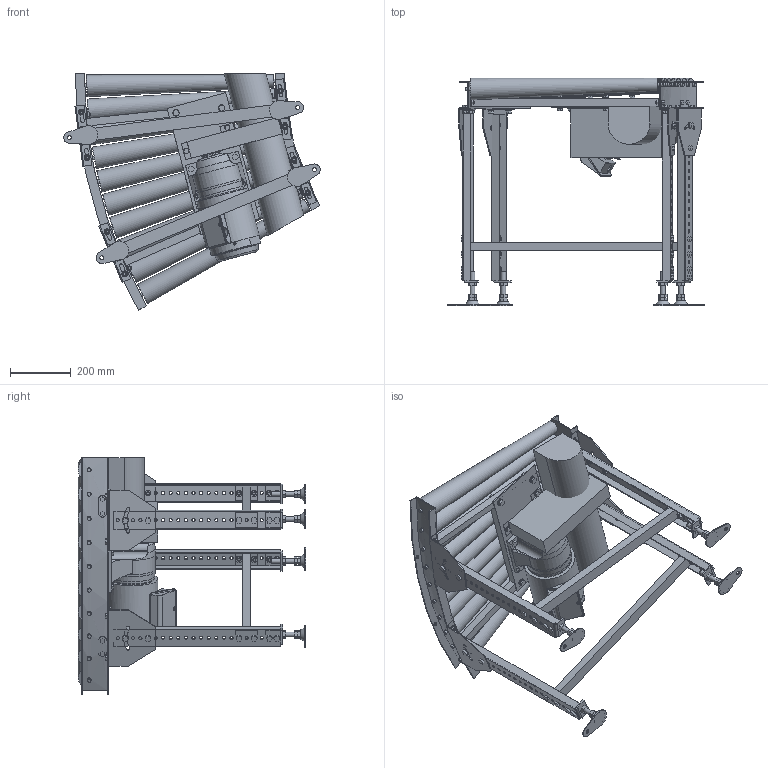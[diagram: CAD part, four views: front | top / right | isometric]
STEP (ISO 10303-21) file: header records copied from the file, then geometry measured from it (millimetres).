
FILE_DESCRIPTION( (''), '2;1');
FILE_NAME ('WEB-MCD-42-630-50-30°-C9.stp','2026-03-19T09:48:56',(''),(''),'spGate 20.6.2 (****-****-****-****)','','');
FILE_SCHEMA (('AUTOMOTIVE_DESIGN'));
Length unit declared in the file: millimetre
Products named in the file (51): WEB-MCD-42-630-50-30_-C9; TEMP_X_T-prt0; TEMP_X_T-prt1; TEMP_X_T-prt2; TEMP_X_T-prt3; TEMP_X_T-prt4; TEMP_X_T-prt5; TEMP_X_T-prt6; TEMP_X_T-prt7; TEMP_X_T-prt8; TEMP_X_T-prt9; TEMP_X_T-prt10; TEMP_X_T-prt11; TEMP_X_T-prt12; TEMP_X_T-prt13; TEMP_X_T-prt14; TEMP_X_T-prt15; TEMP_X_T-prt16; TEMP_X_T-prt17; TEMP_X_T-prt18; TEMP_X_T-prt19; TEMP_X_T-prt20; TEMP_X_T-prt21; TEMP_X_T-prt22; TEMP_X_T-prt23; TEMP_X_T-prt24; TEMP_X_T-prt25; TEMP_X_T-prt26; TEMP_X_T-prt27; TEMP_X_T-prt28; TEMP_X_T-prt29; TEMP_X_T-prt30; TEMP_X_T-prt31; TEMP_X_T-prt32; TEMP_X_T-prt33; TEMP_X_T-prt34; TEMP_X_T-prt35; TEMP_X_T-prt36; TEMP_X_T-prt37; TEMP_X_T-prt38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
Assembly tree (50 placements, depth 2):
  WEB-MCD-42-630-50-30_-C9
    TEMP_X_T-prt0
    TEMP_X_T-prt1
    TEMP_X_T-prt2
    TEMP_X_T-prt3
    TEMP_X_T-prt4
    TEMP_X_T-prt5
    TEMP_X_T-prt6
    TEMP_X_T-prt7
    TEMP_X_T-prt8
    TEMP_X_T-prt9
    TEMP_X_T-prt10
    TEMP_X_T-prt11
    TEMP_X_T-prt12
    TEMP_X_T-prt13
    TEMP_X_T-prt14
    TEMP_X_T-prt15
    TEMP_X_T-prt16
    TEMP_X_T-prt17
    TEMP_X_T-prt18
    TEMP_X_T-prt19
    TEMP_X_T-prt20
    TEMP_X_T-prt21
    TEMP_X_T-prt22
    TEMP_X_T-prt23
    TEMP_X_T-prt24
    TEMP_X_T-prt25
    TEMP_X_T-prt26
    TEMP_X_T-prt27
    TEMP_X_T-prt28
    TEMP_X_T-prt29
    TEMP_X_T-prt30
    TEMP_X_T-prt31
    TEMP_X_T-prt32
    TEMP_X_T-prt33
    TEMP_X_T-prt34
    TEMP_X_T-prt35
    TEMP_X_T-prt36
    TEMP_X_T-prt37
    TEMP_X_T-prt38
    TEMP_X_T-prt39
    TEMP_X_T-prt40
    TEMP_X_T-prt41
    TEMP_X_T-prt42
    TEMP_X_T-prt43
    TEMP_X_T-prt44
    TEMP_X_T-prt45
    TEMP_X_T-prt46
    TEMP_X_T-prt47
    TEMP_X_T-prt48
    TEMP_X_T-prt49
Bounding box: 845.43 x 750 x 780 mm (x, y, z)
Volume: 39297681.6 mm3; surface area: 3641156.7 mm2
Topology: 50 solids, 76 shells, 2611 faces, 6486 edges, 4222 vertices
Faces by surface type: plane 2067, cylinder 477, bspline 66, sphere 1
Full cylindrical faces by diameter (mm): 6.94 x3, 7 x1, 8 x21, 8.5 x16, 10 x56, 10.5 x100, 11 x8, 12 x24, 12.4 x10, 13 x4, 14 x4, 15.4 x4, 16 x4, 17 x4, 18 x8, 18.4 x28, 18.5 x8, 21 x8, 27 x1, 31 x1, 63 x1, 149.6 x1, 153 x1, 170.344 x1
Entity records: 137654 total; most frequent: CARTESIAN_POINT 20539, DIRECTION 13130, ORIENTED_EDGE 12972, COLOUR_RGB 9147, PRESENTATION_STYLE_ASSIGNMENT 9147, STYLED_ITEM 9147, EDGE_CURVE 6486, DRAUGHTING_PRE_DEFINED_CURVE_FONT 6486
